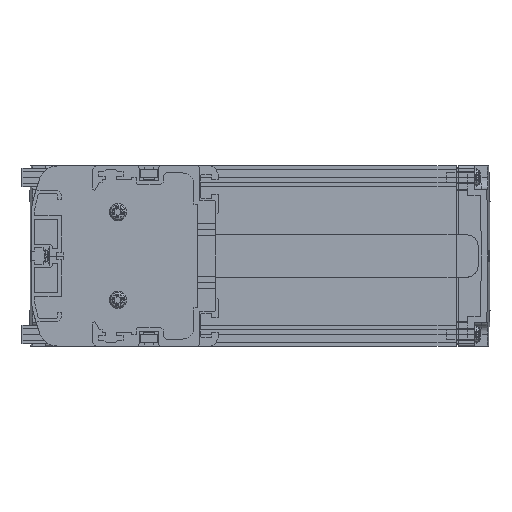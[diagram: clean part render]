
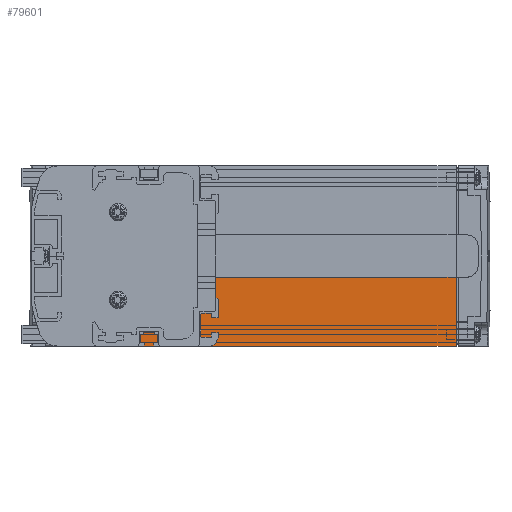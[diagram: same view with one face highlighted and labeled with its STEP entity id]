
A CAD part, left-side view. The second image highlights one B-rep face of the part: STEP entity #79601.
In plain terms, the highlighted planar face has unit normal (-1, 0, 0).
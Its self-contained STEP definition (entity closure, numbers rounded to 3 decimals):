
#77542=DIRECTION('',(0.,1.,0.));
#77543=VECTOR('',#77542,51.);
#77544=CARTESIAN_POINT('',(3.,16.,-27.));
#77545=LINE('',#77544,#77543);
#78191=DIRECTION('',(0.,1.,0.));
#78192=VECTOR('',#78191,170.);
#78193=CARTESIAN_POINT('',(3.,-103.,-39.));
#78194=LINE('',#78193,#78192);
#78209=DIRECTION('',(0.,0.,1.));
#78210=VECTOR('',#78209,29.9);
#78211=CARTESIAN_POINT('',(3.,-103.,-39.));
#78212=LINE('',#78211,#78210);
#78213=DIRECTION('',(0.,0.,-1.));
#78214=VECTOR('',#78213,12.);
#78215=CARTESIAN_POINT('',(3.,67.,-27.));
#78216=LINE('',#78215,#78214);
#78217=DIRECTION('',(0.,0.,-1.));
#78218=VECTOR('',#78217,17.9);
#78219=CARTESIAN_POINT('',(3.,16.,-9.1));
#78220=LINE('',#78219,#78218);
#78327=DIRECTION('',(0.,1.,0.));
#78328=VECTOR('',#78327,119.);
#78329=CARTESIAN_POINT('',(3.,-103.,-9.1));
#78330=LINE('',#78329,#78328);
#78414=CARTESIAN_POINT('',(3.,67.,-27.));
#78416=VERTEX_POINT('',#78414);
#78508=CARTESIAN_POINT('',(3.,67.,-39.));
#78509=VERTEX_POINT('',#78508);
#78582=CARTESIAN_POINT('',(3.,-103.,-39.));
#78583=VERTEX_POINT('',#78582);
#78584=CARTESIAN_POINT('',(3.,-103.,-9.1));
#78585=VERTEX_POINT('',#78584);
#78646=CARTESIAN_POINT('',(3.,16.,-27.));
#78647=VERTEX_POINT('',#78646);
#78648=CARTESIAN_POINT('',(3.,16.,-9.1));
#78649=VERTEX_POINT('',#78648);
#79586=CARTESIAN_POINT('',(3.,-18.,-24.05));
#79587=DIRECTION('',(1.,0.,0.));
#79588=DIRECTION('',(0.,0.,-1.));
#79589=AXIS2_PLACEMENT_3D('',#79586,#79587,#79588);
#79590=PLANE('',#79589);
#79591=ORIENTED_EDGE('',*,*,#78832,.F.);
#79593=ORIENTED_EDGE('',*,*,#79592,.F.);
#79595=ORIENTED_EDGE('',*,*,#79594,.F.);
#79596=ORIENTED_EDGE('',*,*,#79160,.F.);
#79597=ORIENTED_EDGE('',*,*,#79574,.T.);
#79598=ORIENTED_EDGE('',*,*,#78701,.F.);
#79599=EDGE_LOOP('',(#79591,#79593,#79595,#79596,#79597,#79598));
#79600=FACE_OUTER_BOUND('',#79599,.F.);
#79601=ADVANCED_FACE('',(#79600),#79590,.F.);
#78701=EDGE_CURVE('',#78416,#78509,#78216,.T.);
#78832=EDGE_CURVE('',#78647,#78416,#77545,.T.);
#79160=EDGE_CURVE('',#78583,#78585,#78212,.T.);
#79574=EDGE_CURVE('',#78583,#78509,#78194,.T.);
#79592=EDGE_CURVE('',#78649,#78647,#78220,.T.);
#79594=EDGE_CURVE('',#78585,#78649,#78330,.T.);
